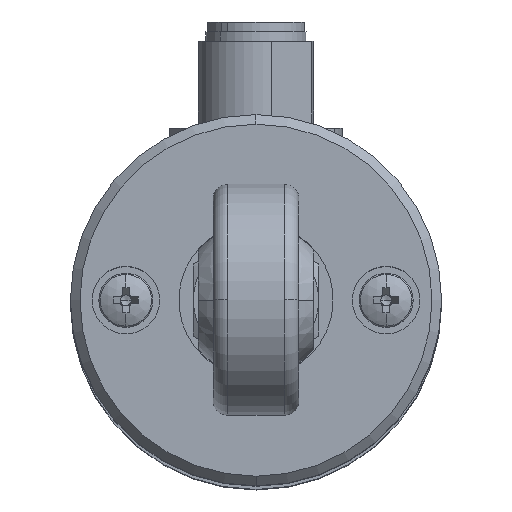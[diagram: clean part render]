
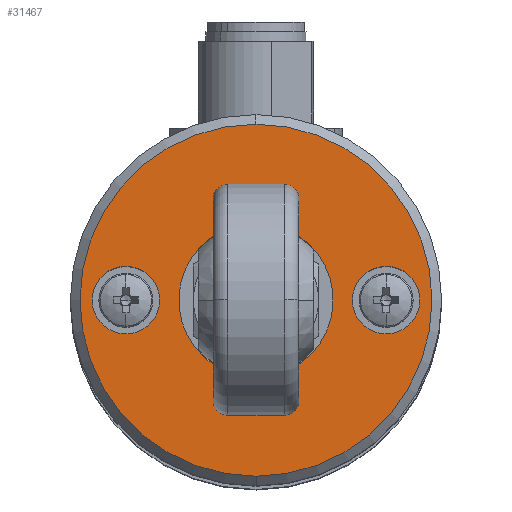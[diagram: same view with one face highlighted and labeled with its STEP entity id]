
A CAD part, top view. The second image highlights one B-rep face of the part: STEP entity #31467.
In plain terms, the highlighted planar face has unit normal (0, 0, 1) as drawn and (0, 1, 0) by its records, which use the part's own axes.
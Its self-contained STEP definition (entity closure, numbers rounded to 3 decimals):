
#968 = CIRCLE ( 'NONE', #1695, 18.25 ) ;
#998 = CARTESIAN_POINT ( 'NONE',  ( -13.5, 12.7, 3.5 ) ) ;
#1113 = DIRECTION ( 'NONE',  ( 0., 1., 0. ) ) ;
#1137 = AXIS2_PLACEMENT_3D ( 'NONE', #20838, #6199, #23274 ) ;
#1695 = AXIS2_PLACEMENT_3D ( 'NONE', #21811, #7187, #24250 ) ;
#2105 = ORIENTED_EDGE ( 'NONE', *, *, #20586, .T. ) ;
#3010 = FACE_BOUND ( 'NONE', #17291, .T. ) ;
#3748 = DIRECTION ( 'NONE',  ( 0., 1., 0. ) ) ;
#4801 = CIRCLE ( 'NONE', #22974, 3.5 ) ;
#5516 = DIRECTION ( 'NONE',  ( 0., 0., 1. ) ) ;
#5529 = DIRECTION ( 'NONE',  ( 0., 1., 0. ) ) ;
#6199 = DIRECTION ( 'NONE',  ( 0., 1., 0. ) ) ;
#6798 = CARTESIAN_POINT ( 'NONE',  ( 0., 12.7, -5.75 ) ) ;
#7187 = DIRECTION ( 'NONE',  ( 0., 1., 0. ) ) ;
#7204 = DIRECTION ( 'NONE',  ( 0., 1., 0. ) ) ;
#7897 = PLANE ( 'NONE',  #14551 ) ;
#8280 = EDGE_CURVE ( 'NONE', #12233, #13795, #26871, .T. ) ;
#9298 = CIRCLE ( 'NONE', #11606, 3.5 ) ;
#9470 = FACE_BOUND ( 'NONE', #25335, .T. ) ;
#9601 = EDGE_LOOP ( 'NONE', ( #30519, #11095 ) ) ;
#10243 = FACE_OUTER_BOUND ( 'NONE', #15512, .T. ) ;
#10581 = CIRCLE ( 'NONE', #22922, 3.5 ) ;
#11095 = ORIENTED_EDGE ( 'NONE', *, *, #8280, .F. ) ;
#11119 = CARTESIAN_POINT ( 'NONE',  ( 0., 12.7, -18.25 ) ) ;
#11606 = AXIS2_PLACEMENT_3D ( 'NONE', #18379, #3748, #20822 ) ;
#12082 = CARTESIAN_POINT ( 'NONE',  ( 0., 12.7, 0. ) ) ;
#12157 = CARTESIAN_POINT ( 'NONE',  ( 13.5, 12.7, -3.5 ) ) ;
#12233 = VERTEX_POINT ( 'NONE', #12157 ) ;
#12551 = VERTEX_POINT ( 'NONE', #26009 ) ;
#13795 = VERTEX_POINT ( 'NONE', #16627 ) ;
#13817 = CARTESIAN_POINT ( 'NONE',  ( 0., 12.7, 5.75 ) ) ;
#14068 = CARTESIAN_POINT ( 'NONE',  ( -13.5, 12.7, 0. ) ) ;
#14119 = ORIENTED_EDGE ( 'NONE', *, *, #18911, .F. ) ;
#14545 = DIRECTION ( 'NONE',  ( 0., 0., 1. ) ) ;
#14551 = AXIS2_PLACEMENT_3D ( 'NONE', #29843, #20172, #5516 ) ;
#14716 = ORIENTED_EDGE ( 'NONE', *, *, #28882, .F. ) ;
#15512 = EDGE_LOOP ( 'NONE', ( #2105, #15990 ) ) ;
#15716 = CARTESIAN_POINT ( 'NONE',  ( 13.5, 12.7, 0. ) ) ;
#15990 = ORIENTED_EDGE ( 'NONE', *, *, #22614, .T. ) ;
#16481 = DIRECTION ( 'NONE',  ( 0., 0., 1. ) ) ;
#16627 = CARTESIAN_POINT ( 'NONE',  ( 13.5, 12.7, 3.5 ) ) ;
#17291 = EDGE_LOOP ( 'NONE', ( #14716, #20209 ) ) ;
#17832 = CIRCLE ( 'NONE', #26740, 5.75 ) ;
#18169 = DIRECTION ( 'NONE',  ( 0., 0., 1. ) ) ;
#18379 = CARTESIAN_POINT ( 'NONE',  ( -13.5, 12.7, 0. ) ) ;
#18911 = EDGE_CURVE ( 'NONE', #23414, #20883, #10581, .T. ) ;
#20172 = DIRECTION ( 'NONE',  ( 0., 1., 0. ) ) ;
#20187 = CARTESIAN_POINT ( 'NONE',  ( 0., 12.7, 0. ) ) ;
#20209 = ORIENTED_EDGE ( 'NONE', *, *, #29030, .F. ) ;
#20244 = ORIENTED_EDGE ( 'NONE', *, *, #24557, .F. ) ;
#20586 = EDGE_CURVE ( 'NONE', #28633, #12551, #968, .T. ) ;
#20822 = DIRECTION ( 'NONE',  ( 0., 0., 1. ) ) ;
#20838 = CARTESIAN_POINT ( 'NONE',  ( 0., 12.7, 0. ) ) ;
#20883 = VERTEX_POINT ( 'NONE', #998 ) ;
#21109 = CARTESIAN_POINT ( 'NONE',  ( -13.5, 12.7, -3.5 ) ) ;
#21811 = CARTESIAN_POINT ( 'NONE',  ( 0., 12.7, 0. ) ) ;
#21819 = CARTESIAN_POINT ( 'NONE',  ( 13.5, 12.7, 0. ) ) ;
#22542 = EDGE_CURVE ( 'NONE', #13795, #12233, #4801, .T. ) ;
#22598 = DIRECTION ( 'NONE',  ( 0., 0., 1. ) ) ;
#22614 = EDGE_CURVE ( 'NONE', #12551, #28633, #26943, .T. ) ;
#22922 = AXIS2_PLACEMENT_3D ( 'NONE', #14068, #31089, #16481 ) ;
#22974 = AXIS2_PLACEMENT_3D ( 'NONE', #15716, #1113, #18169 ) ;
#23274 = DIRECTION ( 'NONE',  ( 0., 0., 1. ) ) ;
#23414 = VERTEX_POINT ( 'NONE', #21109 ) ;
#23493 = VERTEX_POINT ( 'NONE', #6798 ) ;
#24250 = DIRECTION ( 'NONE',  ( 0., 0., 1. ) ) ;
#24259 = DIRECTION ( 'NONE',  ( 0., 0., 1. ) ) ;
#24487 = AXIS2_PLACEMENT_3D ( 'NONE', #20187, #5529, #22598 ) ;
#24557 = EDGE_CURVE ( 'NONE', #20883, #23414, #9298, .T. ) ;
#25335 = EDGE_LOOP ( 'NONE', ( #20244, #14119 ) ) ;
#26009 = CARTESIAN_POINT ( 'NONE',  ( 0., 12.7, 18.25 ) ) ;
#26740 = AXIS2_PLACEMENT_3D ( 'NONE', #12082, #29110, #14545 ) ;
#26871 = CIRCLE ( 'NONE', #30446, 3.5 ) ;
#26943 = CIRCLE ( 'NONE', #1137, 18.25 ) ;
#26991 = CIRCLE ( 'NONE', #24487, 5.75 ) ;
#28202 = FACE_BOUND ( 'NONE', #9601, .T. ) ;
#28633 = VERTEX_POINT ( 'NONE', #11119 ) ;
#28882 = EDGE_CURVE ( 'NONE', #31145, #23493, #17832, .T. ) ;
#29030 = EDGE_CURVE ( 'NONE', #23493, #31145, #26991, .T. ) ;
#29110 = DIRECTION ( 'NONE',  ( 0., 1., 0. ) ) ;
#29843 = CARTESIAN_POINT ( 'NONE',  ( 0., 12.7, 0. ) ) ;
#30446 = AXIS2_PLACEMENT_3D ( 'NONE', #21819, #7204, #24259 ) ;
#30519 = ORIENTED_EDGE ( 'NONE', *, *, #22542, .F. ) ;
#31089 = DIRECTION ( 'NONE',  ( 0., 1., 0. ) ) ;
#31145 = VERTEX_POINT ( 'NONE', #13817 ) ;
#31467 = ADVANCED_FACE ( 'NONE', ( #10243, #28202, #9470, #3010 ), #7897, .T. ) ;
